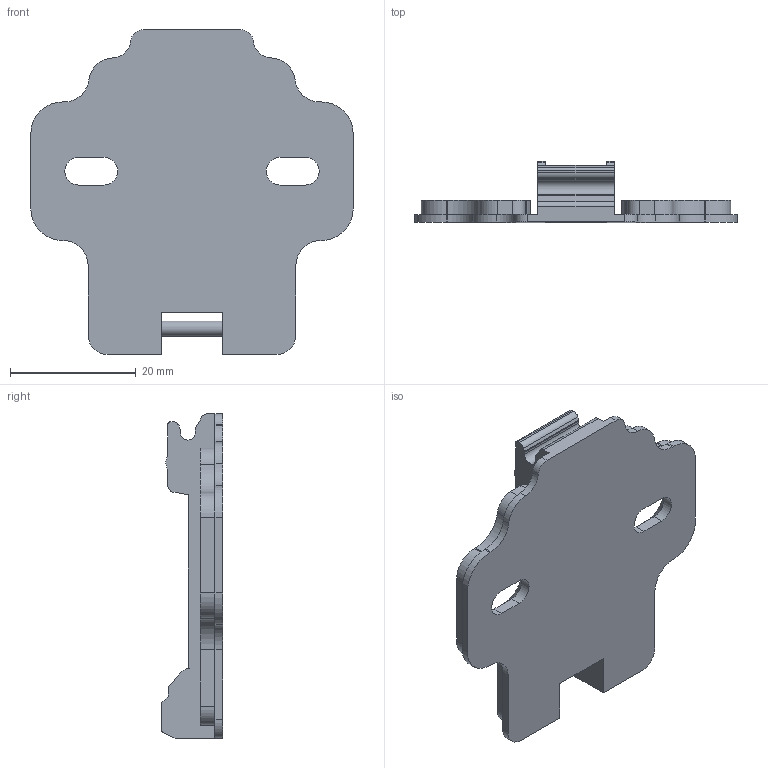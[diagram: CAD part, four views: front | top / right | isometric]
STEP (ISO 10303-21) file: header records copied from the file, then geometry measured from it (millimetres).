
FILE_DESCRIPTION (( 'STEP AP203' ), '1' );
FILE_NAME ('81H00AQ.STEP', '2020-02-12T02:37:11', ( 'Windows 蚚誧' ), ( '' ), 'SwSTEP 2.0', 'SolidWorks 2012', '' );
FILE_SCHEMA (( 'CONFIG_CONTROL_DESIGN' ));
Length unit declared in the file: millimetre
Products named in the file (1): 81H00AQ
Bounding box: 51.2 x 9.7 x 51.6 mm (x, y, z)
Volume: 7335.9 mm3; surface area: 5655.7 mm2
Topology: 1 solids, 1 shells, 142 faces, 404 edges, 266 vertices
Faces by surface type: plane 76, cylinder 62, cone 4
Entity records: 4733 total; most frequent: CARTESIAN_POINT 833, DIRECTION 810, ORIENTED_EDGE 808, EDGE_CURVE 404, VECTOR 276, LINE 276, AXIS2_PLACEMENT_3D 267, VERTEX_POINT 266
